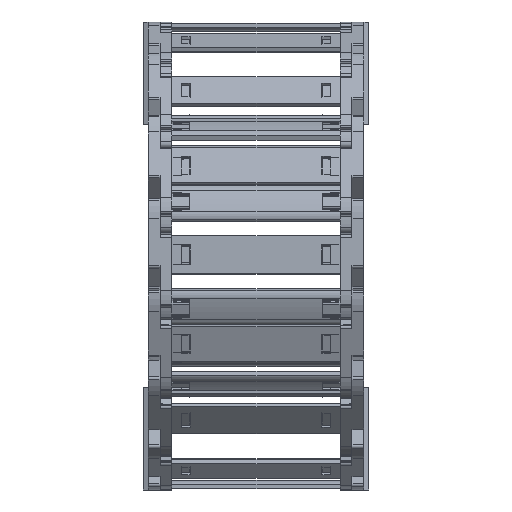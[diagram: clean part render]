
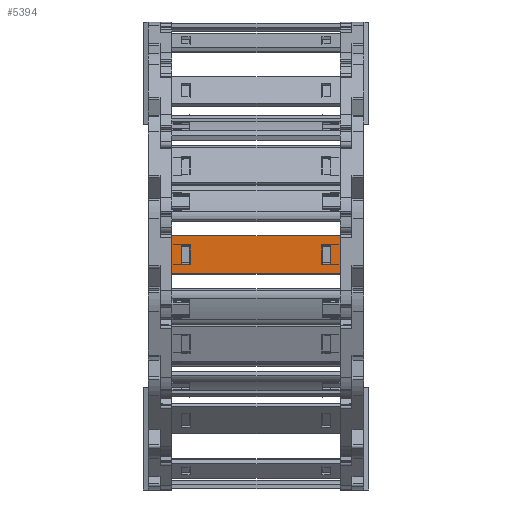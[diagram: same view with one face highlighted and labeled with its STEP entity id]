
A CAD part, left-side view. The second image highlights one B-rep face of the part: STEP entity #5394.
In plain terms, the highlighted planar face has unit normal (-1, 0, 0.007) as drawn and (0, 1, 0) by its records, which use the part's own axes.
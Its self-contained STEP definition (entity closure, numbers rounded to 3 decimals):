
#4814=DIRECTION('',(0.,0.,1.));
#4815=VECTOR('',#4814,15.8);
#4816=CARTESIAN_POINT('',(55.74,1.5,-7.9));
#4817=LINE('',#4816,#4815);
#4818=DIRECTION('',(-1.,0.,0.));
#4819=VECTOR('',#4818,70.5);
#4820=CARTESIAN_POINT('',(55.74,1.5,7.9));
#4821=LINE('',#4820,#4819);
#4822=DIRECTION('',(0.,0.,-1.));
#4823=VECTOR('',#4822,15.8);
#4824=CARTESIAN_POINT('',(-14.76,1.5,7.9));
#4825=LINE('',#4824,#4823);
#4826=DIRECTION('',(1.,0.,0.));
#4827=VECTOR('',#4826,3.648);
#4828=CARTESIAN_POINT('',(48.122,1.5,4.075));
#4829=LINE('',#4828,#4827);
#4830=DIRECTION('',(0.,0.,-1.));
#4831=VECTOR('',#4830,8.15);
#4832=CARTESIAN_POINT('',(51.77,1.5,4.075));
#4833=LINE('',#4832,#4831);
#4834=DIRECTION('',(-1.,0.,0.));
#4835=VECTOR('',#4834,3.648);
#4836=CARTESIAN_POINT('',(51.77,1.5,-4.075));
#4837=LINE('',#4836,#4835);
#4838=DIRECTION('',(0.,0.,-1.));
#4839=VECTOR('',#4838,8.15);
#4840=CARTESIAN_POINT('',(-7.142,1.5,4.075));
#4841=LINE('',#4840,#4839);
#4842=DIRECTION('',(-1.,0.,0.));
#4843=VECTOR('',#4842,3.648);
#4844=CARTESIAN_POINT('',(-7.142,1.5,-4.075));
#4845=LINE('',#4844,#4843);
#4846=DIRECTION('',(0.,0.,1.));
#4847=VECTOR('',#4846,8.15);
#4848=CARTESIAN_POINT('',(-10.79,1.5,-4.075));
#4849=LINE('',#4848,#4847);
#4850=DIRECTION('',(1.,0.,0.));
#4851=VECTOR('',#4850,3.648);
#4852=CARTESIAN_POINT('',(-10.79,1.5,4.075));
#4853=LINE('',#4852,#4851);
#4858=DIRECTION('',(-1.,0.,0.));
#4859=VECTOR('',#4858,70.5);
#4860=CARTESIAN_POINT('',(55.74,1.5,-7.9));
#4861=LINE('',#4860,#4859);
#4979=DIRECTION('',(0.,0.,-1.));
#4980=VECTOR('',#4979,8.15);
#4981=CARTESIAN_POINT('',(48.122,1.5,4.075));
#4982=LINE('',#4981,#4980);
#5164=CARTESIAN_POINT('',(51.77,1.5,4.075));
#5165=VERTEX_POINT('',#5164);
#5166=CARTESIAN_POINT('',(48.122,1.5,4.075));
#5167=VERTEX_POINT('',#5166);
#5208=CARTESIAN_POINT('',(48.122,1.5,-4.075));
#5209=VERTEX_POINT('',#5208);
#5210=CARTESIAN_POINT('',(51.77,1.5,-4.075));
#5211=VERTEX_POINT('',#5210);
#5212=CARTESIAN_POINT('',(55.74,1.5,7.9));
#5214=VERTEX_POINT('',#5212);
#5216=CARTESIAN_POINT('',(55.74,1.5,-7.9));
#5217=VERTEX_POINT('',#5216);
#5240=CARTESIAN_POINT('',(-7.142,1.5,4.075));
#5241=CARTESIAN_POINT('',(-7.142,1.5,-4.075));
#5242=VERTEX_POINT('',#5240);
#5243=VERTEX_POINT('',#5241);
#5244=CARTESIAN_POINT('',(-10.79,1.5,-4.075));
#5245=VERTEX_POINT('',#5244);
#5246=CARTESIAN_POINT('',(-10.79,1.5,4.075));
#5247=VERTEX_POINT('',#5246);
#5248=CARTESIAN_POINT('',(-14.76,1.5,7.9));
#5249=VERTEX_POINT('',#5248);
#5252=CARTESIAN_POINT('',(-14.76,1.5,-7.9));
#5253=VERTEX_POINT('',#5252);
#5363=CARTESIAN_POINT('',(87.48,1.5,10.061));
#5364=DIRECTION('',(0.,-1.,0.));
#5365=DIRECTION('',(0.,0.,-1.));
#5366=AXIS2_PLACEMENT_3D('',#5363,#5364,#5365);
#5367=PLANE('',#5366);
#5368=ORIENTED_EDGE('',*,*,#5302,.T.);
#5369=ORIENTED_EDGE('',*,*,#5328,.T.);
#5370=ORIENTED_EDGE('',*,*,#5341,.T.);
#5372=ORIENTED_EDGE('',*,*,#5371,.F.);
#5373=EDGE_LOOP('',(#5368,#5369,#5370,#5372));
#5374=FACE_OUTER_BOUND('',#5373,.F.);
#5376=ORIENTED_EDGE('',*,*,#5375,.F.);
#5377=ORIENTED_EDGE('',*,*,#5265,.T.);
#5379=ORIENTED_EDGE('',*,*,#5378,.T.);
#5381=ORIENTED_EDGE('',*,*,#5380,.T.);
#5382=EDGE_LOOP('',(#5376,#5377,#5379,#5381));
#5383=FACE_BOUND('',#5382,.F.);
#5385=ORIENTED_EDGE('',*,*,#5384,.T.);
#5387=ORIENTED_EDGE('',*,*,#5386,.T.);
#5389=ORIENTED_EDGE('',*,*,#5388,.T.);
#5391=ORIENTED_EDGE('',*,*,#5390,.T.);
#5392=EDGE_LOOP('',(#5385,#5387,#5389,#5391));
#5393=FACE_BOUND('',#5392,.F.);
#5394=ADVANCED_FACE('',(#5374,#5383,#5393),#5367,.F.);
#5265=EDGE_CURVE('',#5167,#5165,#4829,.T.);
#5302=EDGE_CURVE('',#5217,#5214,#4817,.T.);
#5328=EDGE_CURVE('',#5214,#5249,#4821,.T.);
#5341=EDGE_CURVE('',#5249,#5253,#4825,.T.);
#5371=EDGE_CURVE('',#5217,#5253,#4861,.T.);
#5375=EDGE_CURVE('',#5167,#5209,#4982,.T.);
#5378=EDGE_CURVE('',#5165,#5211,#4833,.T.);
#5380=EDGE_CURVE('',#5211,#5209,#4837,.T.);
#5384=EDGE_CURVE('',#5242,#5243,#4841,.T.);
#5386=EDGE_CURVE('',#5243,#5245,#4845,.T.);
#5388=EDGE_CURVE('',#5245,#5247,#4849,.T.);
#5390=EDGE_CURVE('',#5247,#5242,#4853,.T.);
